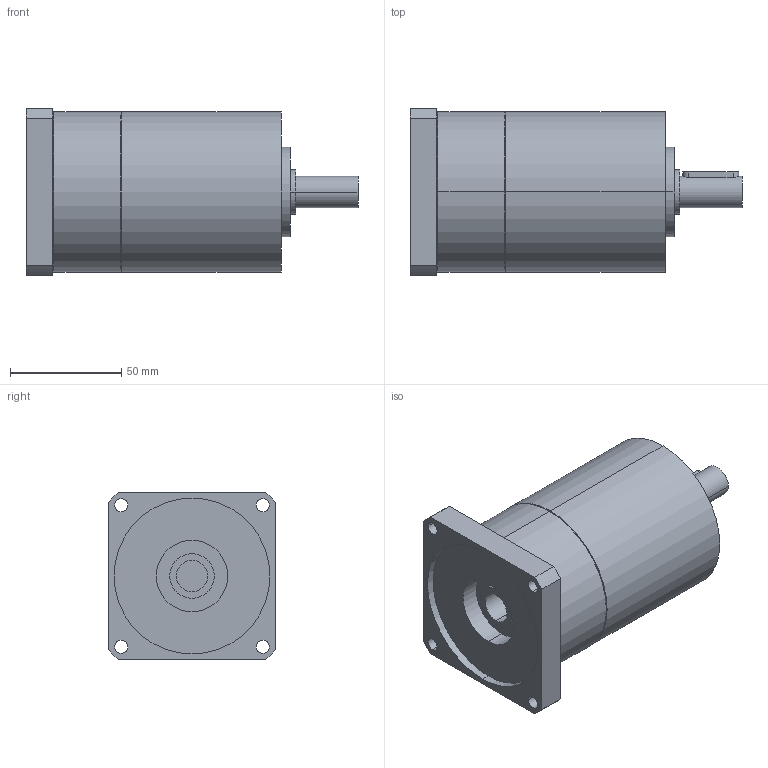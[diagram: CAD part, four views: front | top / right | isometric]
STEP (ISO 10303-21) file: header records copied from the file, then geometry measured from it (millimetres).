
FILE_DESCRIPTION(('CoCreate Modeling STEP Export'),'2;1');
FILE_NAME('GPT75_ig-9-12-16-20-25-28-35-40-50-70-100_14_B14T_14_P24.stp','2014-08-27T13:17:20',(''),(''),'CoCreate Modeling STEP processor for AP214 (Solid Model)','CoCreate Modeling 16.00C 25-Feb-2009 (C) Parametric Technology GmbH','');
FILE_SCHEMA(('AUTOMOTIVE_DESIGN { 1 0 10303 214 1 1 1 1 }'));
Length unit declared in the file: millimetre
Products named in the file (2): GPT75_ig-9-12-16-20-25-28-35-40-50-70-100_14_B14T_14_P24
Assembly tree (1 placements, depth 2):
  GPT75_ig-9-12-16-20-25-28-35-40-50-70-100_14_B14T_14_P24
    GPT75_ig-9-12-16-20-25-28-35-40-50-70-100_14_B14T_14_P24
Bounding box: 149 x 75 x 75 mm (x, y, z)
Volume: 468279.5 mm3; surface area: 44905.3 mm2
Topology: 1 solids, 1 shells, 69 faces, 163 edges, 110 vertices
Faces by surface type: cylinder 42, plane 23, cone 4
Entity records: 2146 total; most frequent: CARTESIAN_POINT 661, ORIENTED_EDGE 326, DIRECTION 262, EDGE_CURVE 163, VERTEX_POINT 110, AXIS2_PLACEMENT_3D 99, EDGE_LOOP 91, FACE_OUTER_BOUND 69
